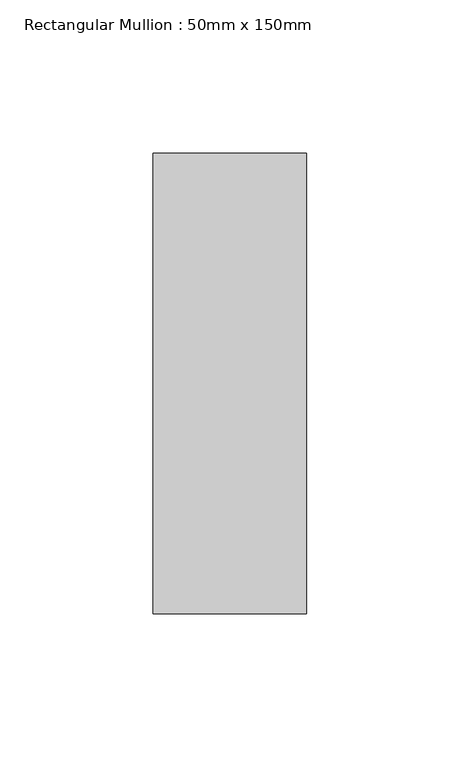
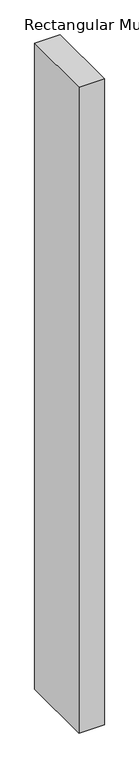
"""IFC4 building model written with IfcOpenShell, lengths in millimetres: member geometry, Rectangular Mullion : 50mm x 150mm."""

from ifc_helpers import new_model, si_unit, frame, origin, place, context, project, spatial, polyline, outline, extrude, source, transform, mapped, element, save


def rectangular_mullion_50mm_x_150mm_33c77db3(model_context):
    return source(origin(), model_context, "Body", "SweptSolid", [
        extrude(outline(polyline([(0.0, 75.0), (0.0, -75.0), (-50.0, -75.0), (-50.0, 75.0), (0.0, 75.0)])), frame((0.0, 0.0, -1338.8800777), z_axis=(0.0, 0.0, 1.0), x_axis=(1.0, 0.0, 0.0)), (0.0, 0.0, 1.0), 1338.8800777),
    ])


if __name__ == "__main__":
    model = new_model("IFC4")
    model_context = context("Model", 3, world=origin())
    ifc_project = project(units=[si_unit("LENGTHUNIT", "METRE", prefix="MILLI")], contexts=[model_context])
    site = spatial("IfcSite", under=ifc_project)
    building = spatial("IfcBuilding", under=site)
    placement = place(None, origin())
    rectangular_mullion_50mm_x_150mm_shape = rectangular_mullion_50mm_x_150mm_33c77db3(model_context)
    element("IfcMember", 1, ObjectType="Rectangular Mullion : 50mm x 150mm", at=placement, inside=building, context=model_context, shape_type="MappedRepresentation", body=[
        mapped(rectangular_mullion_50mm_x_150mm_shape, transform((0.0, 0.0, 0.0), x_axis=(1.0, 0.0, 0.0), y_axis=(0.0, 1.0, 0.0), z_axis=(0.0, 0.0, 1.0))),
    ])
    save(model, "model.ifc")
